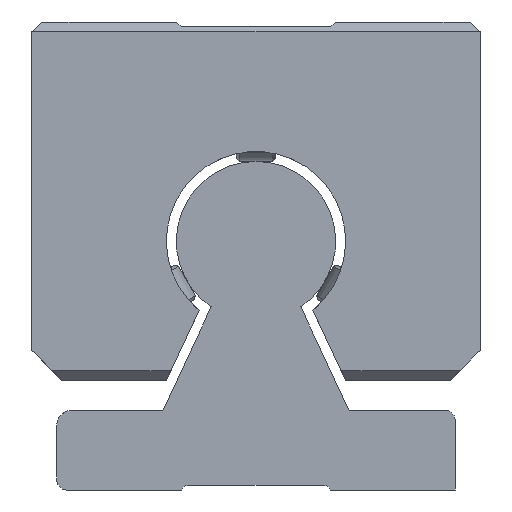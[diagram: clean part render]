
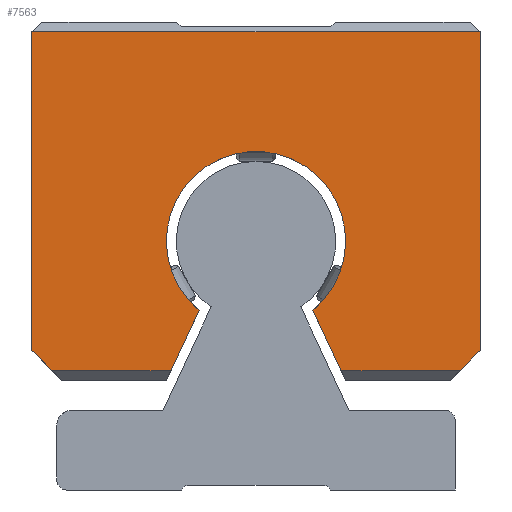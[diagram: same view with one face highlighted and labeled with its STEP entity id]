
A CAD part, left-side view. The second image highlights one B-rep face of the part: STEP entity #7563.
In plain terms, the highlighted planar face has unit normal (-1, 0, 0).
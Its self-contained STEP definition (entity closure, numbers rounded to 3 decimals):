
#6159=CARTESIAN_POINT('',(247.548,-22.5,46.));
#6160=VERTEX_POINT('',#6159);
#6169=CARTESIAN_POINT('',(247.548,-22.5,14.));
#6170=VERTEX_POINT('',#6169);
#6171=CARTESIAN_POINT('',(247.548,-22.5,46.));
#6172=DIRECTION('',(0.0,0.0,-1.0));
#6173=VECTOR('',#6172,32.0);
#6174=LINE('',#6171,#6173);
#6175=EDGE_CURVE('',#6160,#6170,#6174,.T.);
#6384=CARTESIAN_POINT('',(247.548,-5.714,18.047));
#6385=VERTEX_POINT('',#6384);
#6392=CARTESIAN_POINT('',(247.548,5.714,18.047));
#6393=VERTEX_POINT('',#6392);
#6394=CARTESIAN_POINT('',(247.548,0.,25.));
#6395=DIRECTION('',(-1.0,0.0,0.0));
#6396=DIRECTION('',(0.0,-1.0,0.0));
#6397=AXIS2_PLACEMENT_3D('',#6394,#6395,#6396);
#6398=CIRCLE('',#6397,9.0);
#6399=EDGE_CURVE('',#6385,#6393,#6398,.T.);
#7191=CARTESIAN_POINT('',(247.548,22.5,46.));
#7192=VERTEX_POINT('',#7191);
#7199=CARTESIAN_POINT('',(247.548,22.5,46.));
#7200=DIRECTION('',(0.0,-1.0,0.0));
#7201=VECTOR('',#7200,45.0);
#7202=LINE('',#7199,#7201);
#7203=EDGE_CURVE('',#7192,#6160,#7202,.T.);
#7213=CARTESIAN_POINT('',(247.548,20.5,12.));
#7214=VERTEX_POINT('',#7213);
#7231=CARTESIAN_POINT('',(247.548,8.534,12.));
#7232=VERTEX_POINT('',#7231);
#7239=CARTESIAN_POINT('',(247.548,8.534,12.));
#7240=DIRECTION('',(0.0,1.0,0.0));
#7241=VECTOR('',#7240,11.966);
#7242=LINE('',#7239,#7241);
#7243=EDGE_CURVE('',#7232,#7214,#7242,.T.);
#7302=CARTESIAN_POINT('',(247.548,22.5,14.));
#7303=VERTEX_POINT('',#7302);
#7304=CARTESIAN_POINT('',(247.548,20.5,12.));
#7305=DIRECTION('',(0.0,0.707,0.707));
#7306=VECTOR('',#7305,2.828);
#7307=LINE('',#7304,#7306);
#7308=EDGE_CURVE('',#7214,#7303,#7307,.T.);
#7489=CARTESIAN_POINT('',(247.548,-20.5,12.));
#7490=VERTEX_POINT('',#7489);
#7491=CARTESIAN_POINT('',(247.548,-22.5,14.));
#7492=DIRECTION('',(0.0,0.707,-0.707));
#7493=VECTOR('',#7492,2.828);
#7494=LINE('',#7491,#7493);
#7495=EDGE_CURVE('',#6170,#7490,#7494,.T.);
#7513=CARTESIAN_POINT('',(247.548,-8.534,12.));
#7514=VERTEX_POINT('',#7513);
#7515=CARTESIAN_POINT('',(247.548,-20.5,12.));
#7516=DIRECTION('',(0.0,1.0,0.0));
#7517=VECTOR('',#7516,11.966);
#7518=LINE('',#7515,#7517);
#7519=EDGE_CURVE('',#7490,#7514,#7518,.T.);
#7531=CARTESIAN_POINT('',(247.548,-15.25,46.75));
#7532=DIRECTION('',(1.0,0.0,0.0));
#7533=DIRECTION('',(0.0,0.0,-1.0));
#7534=AXIS2_PLACEMENT_3D('',#7531,#7532,#7533);
#7535=PLANE('',#7534);
#7536=ORIENTED_EDGE('',*,*,#7243,.F.);
#7537=CARTESIAN_POINT('',(247.548,5.714,18.047));
#7538=DIRECTION('',(0.0,0.423,-0.906));
#7539=VECTOR('',#7538,6.672);
#7540=LINE('',#7537,#7539);
#7541=EDGE_CURVE('',#6393,#7232,#7540,.T.);
#7542=ORIENTED_EDGE('',*,*,#7541,.F.);
#7543=ORIENTED_EDGE('',*,*,#6399,.F.);
#7544=CARTESIAN_POINT('',(247.548,-8.534,12.));
#7545=DIRECTION('',(0.0,0.423,0.906));
#7546=VECTOR('',#7545,6.672);
#7547=LINE('',#7544,#7546);
#7548=EDGE_CURVE('',#7514,#6385,#7547,.T.);
#7549=ORIENTED_EDGE('',*,*,#7548,.F.);
#7550=ORIENTED_EDGE('',*,*,#7519,.F.);
#7551=ORIENTED_EDGE('',*,*,#7495,.F.);
#7552=ORIENTED_EDGE('',*,*,#6175,.F.);
#7553=ORIENTED_EDGE('',*,*,#7203,.F.);
#7554=CARTESIAN_POINT('',(247.548,22.5,14.));
#7555=DIRECTION('',(0.0,0.0,1.0));
#7556=VECTOR('',#7555,32.0);
#7557=LINE('',#7554,#7556);
#7558=EDGE_CURVE('',#7303,#7192,#7557,.T.);
#7559=ORIENTED_EDGE('',*,*,#7558,.F.);
#7560=ORIENTED_EDGE('',*,*,#7308,.F.);
#7561=EDGE_LOOP('',(#7536,#7542,#7543,#7549,#7550,#7551,#7552,#7553,#7559,#7560));
#7562=FACE_OUTER_BOUND('',#7561,.T.);
#7563=ADVANCED_FACE('',(#7562),#7535,.F.);
